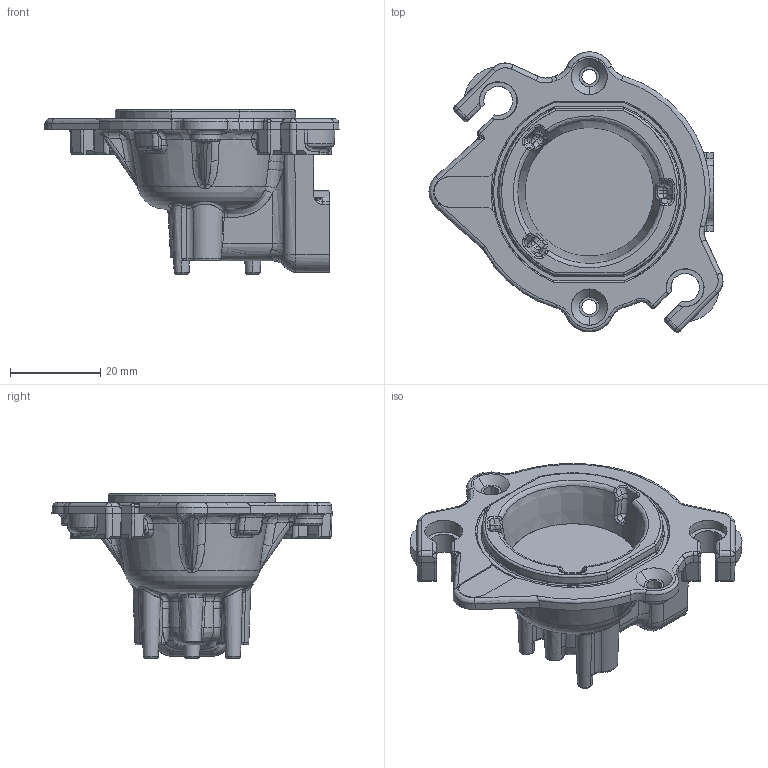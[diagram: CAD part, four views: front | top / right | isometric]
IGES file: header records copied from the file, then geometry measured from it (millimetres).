
Start section: --------------------------------------------------------------------- IGES file generated by CADlook_v12.0.  Visit http://www.cadlook.com for more information on CADlook translators and viewers. ---------------------------------------------------------------------
Global section: file name: X:\progetto-gas\File_clienti\Europa\Set-base_SerieI\Semirapido\cop-sr-01-a11.igs; native system: Cimatron E 9.0; preprocessor: CADlook_v12.0; author: aquintaba; organization: None; date: 20100722.084534; units: millimetre
Bounding box: 65.09 x 62.05 x 36.5 mm (x, y, z)
Surface area: 11978.6 mm2 (no closed solid volume)
Topology: 0 solids, 0 shells, 826 faces, 4589 edges, 4591 vertices
Faces by surface type: bspline 500, revolution 326
